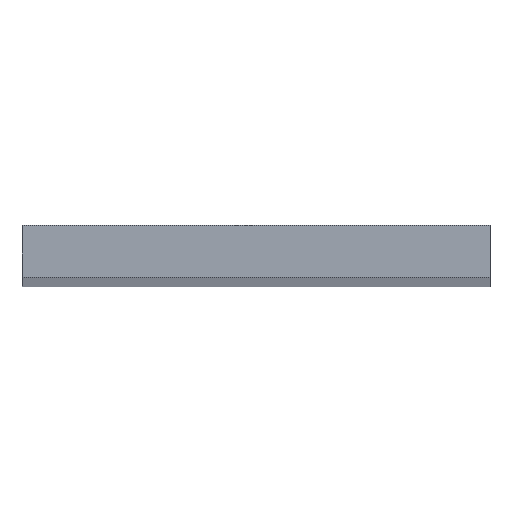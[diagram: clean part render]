
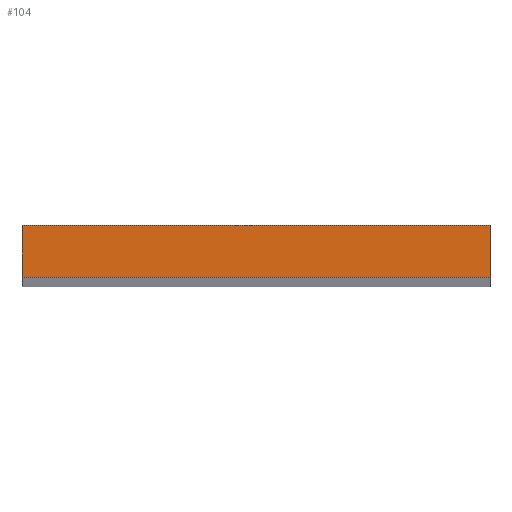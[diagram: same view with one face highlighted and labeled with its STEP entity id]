
A CAD part, top view. The second image highlights one B-rep face of the part: STEP entity #104.
In plain terms, the highlighted planar face has unit normal (0, 0, 1).
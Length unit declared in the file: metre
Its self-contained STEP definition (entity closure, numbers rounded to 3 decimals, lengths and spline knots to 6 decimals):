
#18=FACE_OUTER_BOUND('',#24,.T.);
#24=EDGE_LOOP('',(#86,#87,#88,#89));
#28=LINE('',#149,#40);
#32=LINE('',#156,#44);
#35=LINE('',#162,#47);
#37=LINE('',#165,#49);
#40=VECTOR('',#121,0.01);
#44=VECTOR('',#127,0.09);
#47=VECTOR('',#132,0.01);
#49=VECTOR('',#136,0.09);
#52=VERTEX_POINT('',#146);
#53=VERTEX_POINT('',#148);
#55=VERTEX_POINT('',#154);
#57=VERTEX_POINT('',#160);
#60=EDGE_CURVE('',#53,#52,#28,.T.);
#64=EDGE_CURVE('',#52,#55,#32,.T.);
#67=EDGE_CURVE('',#55,#57,#35,.T.);
#69=EDGE_CURVE('',#57,#53,#37,.T.);
#86=ORIENTED_EDGE('',*,*,#60,.T.);
#87=ORIENTED_EDGE('',*,*,#64,.T.);
#88=ORIENTED_EDGE('',*,*,#67,.T.);
#89=ORIENTED_EDGE('',*,*,#69,.T.);
#98=PLANE('',#113);
#104=ADVANCED_FACE('',(#18),#98,.T.);
#113=AXIS2_PLACEMENT_3D('',#166,#137,#138);
#121=DIRECTION('',(0.,-1.,0.));
#127=DIRECTION('',(1.,0.,0.));
#132=DIRECTION('',(0.,1.,0.));
#136=DIRECTION('',(-1.,0.,0.));
#137=DIRECTION('center_axis',(0.,0.,1.));
#138=DIRECTION('ref_axis',(1.,0.,0.));
#146=CARTESIAN_POINT('',(-0.045,-0.005,1.));
#148=CARTESIAN_POINT('',(-0.045,0.005,1.));
#149=CARTESIAN_POINT('',(-0.045,0.005,1.));
#154=CARTESIAN_POINT('',(0.045,-0.005,1.));
#156=CARTESIAN_POINT('',(-0.045,-0.005,1.));
#160=CARTESIAN_POINT('',(0.045,0.005,1.));
#162=CARTESIAN_POINT('',(0.045,-0.005,1.));
#165=CARTESIAN_POINT('',(0.045,0.005,1.));
#166=CARTESIAN_POINT('Origin',(0.,0.,1.));
